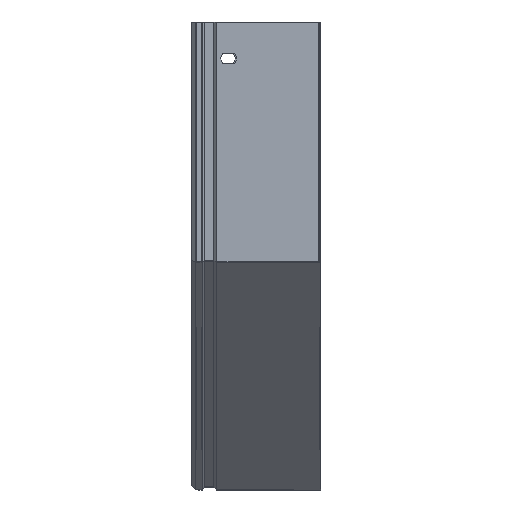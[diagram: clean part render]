
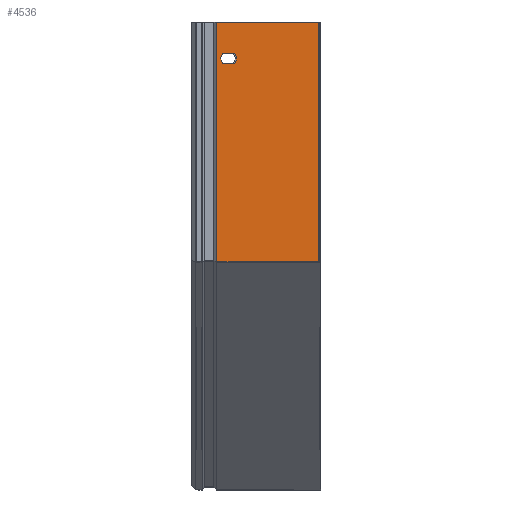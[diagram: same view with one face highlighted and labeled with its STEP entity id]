
A CAD part, left-side view. The second image highlights one B-rep face of the part: STEP entity #4536.
In plain terms, the highlighted planar face has unit normal (-1, 0, 0).
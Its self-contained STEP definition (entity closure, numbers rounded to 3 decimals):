
#36 = CARTESIAN_POINT ( 'NONE',  ( -360.362, 0., 360.362 ) ) ;
#176 = ORIENTED_EDGE ( 'NONE', *, *, #3699, .T. ) ;
#190 = VERTEX_POINT ( 'NONE', #1967 ) ;
#293 = CARTESIAN_POINT ( 'NONE',  ( -360.362, 0., 175.362 ) ) ;
#325 = EDGE_CURVE ( 'NONE', #4814, #5467, #2949, .T. ) ;
#361 = VECTOR ( 'NONE', #5252, 1000. ) ;
#376 = EDGE_LOOP ( 'NONE', ( #1997, #176, #1229, #3987 ) ) ;
#388 = DIRECTION ( 'NONE',  ( 0., -1., 0. ) ) ;
#394 = ORIENTED_EDGE ( 'NONE', *, *, #325, .T. ) ;
#610 = CIRCLE ( 'NONE', #5023, 6. ) ;
#662 = LINE ( 'NONE', #4224, #1730 ) ;
#727 = FACE_OUTER_BOUND ( 'NONE', #5271, .T. ) ;
#1008 = DIRECTION ( 'NONE',  ( 1., 0., 0. ) ) ;
#1041 = DIRECTION ( 'NONE',  ( 0., 0., 1. ) ) ;
#1229 = ORIENTED_EDGE ( 'NONE', *, *, #3037, .T. ) ;
#1284 = LINE ( 'NONE', #3870, #4840 ) ;
#1463 = VERTEX_POINT ( 'NONE', #3572 ) ;
#1560 = ORIENTED_EDGE ( 'NONE', *, *, #5539, .T. ) ;
#1684 = CARTESIAN_POINT ( 'NONE',  ( -360.362, -1., 175.362 ) ) ;
#1730 = VECTOR ( 'NONE', #2420, 1000. ) ;
#1739 = AXIS2_PLACEMENT_3D ( 'NONE', #293, #5447, #5535 ) ;
#1794 = LINE ( 'NONE', #36, #361 ) ;
#1806 = VERTEX_POINT ( 'NONE', #3599 ) ;
#1909 = EDGE_CURVE ( 'NONE', #1463, #3758, #610, .T. ) ;
#1930 = CARTESIAN_POINT ( 'NONE',  ( -360.362, 70., 332.362 ) ) ;
#1967 = CARTESIAN_POINT ( 'NONE',  ( -360.362, 79.5, 360.362 ) ) ;
#1990 = EDGE_CURVE ( 'NONE', #3750, #1463, #662, .T. ) ;
#1997 = ORIENTED_EDGE ( 'NONE', *, *, #1909, .T. ) ;
#2032 = LINE ( 'NONE', #3783, #3308 ) ;
#2088 = CIRCLE ( 'NONE', #4659, 6. ) ;
#2136 = CARTESIAN_POINT ( 'NONE',  ( -360.362, 0., 175.362 ) ) ;
#2288 = LINE ( 'NONE', #4495, #3927 ) ;
#2349 = CARTESIAN_POINT ( 'NONE',  ( -360.362, 79.5, 175.362 ) ) ;
#2420 = DIRECTION ( 'NONE',  ( 0., 1., 0. ) ) ;
#2454 = PLANE ( 'NONE',  #1739 ) ;
#2770 = DIRECTION ( 'NONE',  ( 0., 0., -1. ) ) ;
#2887 = VECTOR ( 'NONE', #3915, 1000. ) ;
#2949 = LINE ( 'NONE', #2136, #2887 ) ;
#3037 = EDGE_CURVE ( 'NONE', #1806, #3750, #2088, .T. ) ;
#3166 = DIRECTION ( 'NONE',  ( 1., 0., 0. ) ) ;
#3308 = VECTOR ( 'NONE', #5541, 1000. ) ;
#3499 = CARTESIAN_POINT ( 'NONE',  ( -360.362, 74.472, 336.362 ) ) ;
#3515 = ORIENTED_EDGE ( 'NONE', *, *, #5389, .F. ) ;
#3572 = CARTESIAN_POINT ( 'NONE',  ( -360.362, 74.472, 328.362 ) ) ;
#3599 = CARTESIAN_POINT ( 'NONE',  ( -360.362, 65.528, 336.362 ) ) ;
#3699 = EDGE_CURVE ( 'NONE', #3758, #1806, #1284, .T. ) ;
#3703 = CARTESIAN_POINT ( 'NONE',  ( -360.362, -1., 360.362 ) ) ;
#3717 = FACE_BOUND ( 'NONE', #376, .T. ) ;
#3750 = VERTEX_POINT ( 'NONE', #4301 ) ;
#3758 = VERTEX_POINT ( 'NONE', #3499 ) ;
#3783 = CARTESIAN_POINT ( 'NONE',  ( -360.362, 79.5, 175.362 ) ) ;
#3841 = EDGE_CURVE ( 'NONE', #5467, #4817, #2288, .T. ) ;
#3870 = CARTESIAN_POINT ( 'NONE',  ( -360.362, 74.472, 336.362 ) ) ;
#3915 = DIRECTION ( 'NONE',  ( 0., -1., 0. ) ) ;
#3927 = VECTOR ( 'NONE', #1041, 1000. ) ;
#3987 = ORIENTED_EDGE ( 'NONE', *, *, #1990, .T. ) ;
#4224 = CARTESIAN_POINT ( 'NONE',  ( -360.362, 74.472, 328.362 ) ) ;
#4301 = CARTESIAN_POINT ( 'NONE',  ( -360.362, 65.528, 328.362 ) ) ;
#4495 = CARTESIAN_POINT ( 'NONE',  ( -360.362, -1., 175.362 ) ) ;
#4536 = ADVANCED_FACE ( 'NONE', ( #3717, #727 ), #2454, .T. ) ;
#4659 = AXIS2_PLACEMENT_3D ( 'NONE', #1930, #3166, #4998 ) ;
#4814 = VERTEX_POINT ( 'NONE', #2349 ) ;
#4817 = VERTEX_POINT ( 'NONE', #3703 ) ;
#4840 = VECTOR ( 'NONE', #388, 1000. ) ;
#4998 = DIRECTION ( 'NONE',  ( 0., 0., -1. ) ) ;
#5023 = AXIS2_PLACEMENT_3D ( 'NONE', #5379, #1008, #2770 ) ;
#5252 = DIRECTION ( 'NONE',  ( 0., 1., 0. ) ) ;
#5271 = EDGE_LOOP ( 'NONE', ( #394, #5448, #1560, #3515 ) ) ;
#5379 = CARTESIAN_POINT ( 'NONE',  ( -360.362, 70., 332.362 ) ) ;
#5389 = EDGE_CURVE ( 'NONE', #4814, #190, #2032, .T. ) ;
#5447 = DIRECTION ( 'NONE',  ( -1., 0., 0. ) ) ;
#5448 = ORIENTED_EDGE ( 'NONE', *, *, #3841, .T. ) ;
#5467 = VERTEX_POINT ( 'NONE', #1684 ) ;
#5535 = DIRECTION ( 'NONE',  ( 0., 0., 1. ) ) ;
#5539 = EDGE_CURVE ( 'NONE', #4817, #190, #1794, .T. ) ;
#5541 = DIRECTION ( 'NONE',  ( 0., 0., 1. ) ) ;
